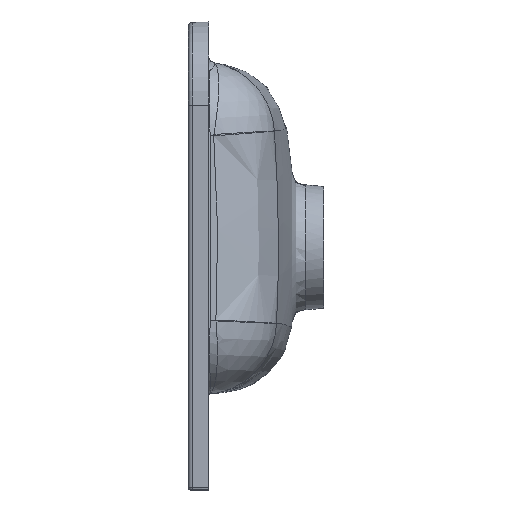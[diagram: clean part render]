
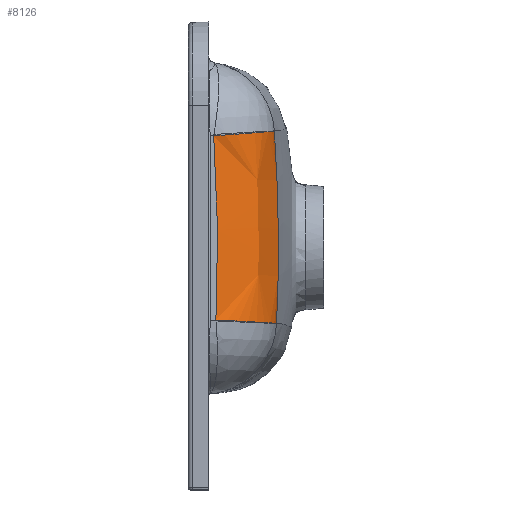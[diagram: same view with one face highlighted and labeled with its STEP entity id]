
A CAD part, left-side view. The second image highlights one B-rep face of the part: STEP entity #8126.
In plain terms, the highlighted free-form (B-spline) face has degree [3, 2] with [14, 3] control points.
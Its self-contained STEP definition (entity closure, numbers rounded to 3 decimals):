
#202 = DIRECTION ( 'NONE',  ( 0.008, -0.047, 0.999 ) ) ;
#268 = CARTESIAN_POINT ( 'NONE',  ( -246.825, 67.188, 109.935 ) ) ;
#399 = CARTESIAN_POINT ( 'NONE',  ( -182.777, 5.2, -74.889 ) ) ;
#421 = CARTESIAN_POINT ( 'NONE',  ( -183.133, 3.418, 4.333 ) ) ;
#437 = CARTESIAN_POINT ( 'NONE',  ( -182.467, 7.408, 114.668 ) ) ;
#460 = CARTESIAN_POINT ( 'NONE',  ( -246.274, 64.058, 49.481 ) ) ;
#544 = CARTESIAN_POINT ( 'NONE',  ( -183.125, 3.456, -11.563 ) ) ;
#829 = CARTESIAN_POINT ( 'NONE',  ( -246.825, 67.188, 109.935 ) ) ;
#1023 = FACE_OUTER_BOUND ( 'NONE', #3909, .T. ) ;
#1048 = CARTESIAN_POINT ( 'NONE',  ( -182.947, 4.278, 51.915 ) ) ;
#1127 = CARTESIAN_POINT ( 'NONE',  ( -183.123, 3.462, 12.281 ) ) ;
#1319 = DIRECTION ( 'NONE',  ( 0., -0.998, 0.066 ) ) ;
#1326 = VERTEX_POINT ( 'NONE', #3235 ) ;
#1416 = CARTESIAN_POINT ( 'NONE',  ( -246.265, 64.007, 49.482 ) ) ;
#1723 = CARTESIAN_POINT ( 'NONE',  ( -182.467, 7.408, 114.668 ) ) ;
#1819 = CARTESIAN_POINT ( 'NONE',  ( -183.054, 3.767, 35.742 ) ) ;
#2086 = CIRCLE ( 'NONE', #3154, 73. ) ;
#2253 = B_SPLINE_CURVE_WITH_KNOTS ( 'NONE', 3,
 ( #4647, #7167, #7590, #2672, #6542, #4059, #1416, #4451, #6966, #829 ),
 .UNSPECIFIED., .F., .F.,
 ( 4, 2, 2, 2, 4 ),
 ( 0., 0.045, 0.091, 0.136, 0.181 ),
 .UNSPECIFIED. ) ;
#2323 = CARTESIAN_POINT ( 'NONE',  ( -182.9, 4.482, -59.149 ) ) ;
#2351 = CARTESIAN_POINT ( 'NONE',  ( -236.775, 10.187, 27.855 ) ) ;
#2369 = CARTESIAN_POINT ( 'NONE',  ( -183.137, 3.397, -11.66 ) ) ;
#2391 = CARTESIAN_POINT ( 'NONE',  ( -182.892, 4.556, 59.811 ) ) ;
#2404 = CARTESIAN_POINT ( 'NONE',  ( -182.901, 4.479, -59.09 ) ) ;
#2428 = CARTESIAN_POINT ( 'NONE',  ( -246.166, 63.449, 26.804 ) ) ;
#2442 = CARTESIAN_POINT ( 'NONE',  ( -182.954, 4.214, 51.534 ) ) ;
#2468 = CARTESIAN_POINT ( 'NONE',  ( -246.195, 63.614, 34.363 ) ) ;
#2499 = VERTEX_POINT ( 'NONE', #2711 ) ;
#2672 = CARTESIAN_POINT ( 'NONE',  ( -246.118, 63.175, -11.001 ) ) ;
#2711 = CARTESIAN_POINT ( 'NONE',  ( -182.777, 5.2, -74.889 ) ) ;
#2750 = ORIENTED_EDGE ( 'NONE', *, *, #7606, .F. ) ;
#2843 = ORIENTED_EDGE ( 'NONE', *, *, #5863, .F. ) ;
#2856 =( BOUNDED_SURFACE ( )  B_SPLINE_SURFACE ( 3, 2, ( 
 ( #399, #2953, #5492 ),
 ( #2323, #4873, #6188 ),
 ( #6268, #8080, #5514 ),
 ( #3101, #5642, #6146 ),
 ( #544, #4240, #3610 ),
 ( #421, #8116, #2976 ),
 ( #1127, #5563, #3648 ),
 ( #8041, #2351, #2428 ),
 ( #4942, #8154, #2468 ),
 ( #1048, #3688, #460 ),
 ( #2391, #4977, #4905 ),
 ( #6839, #7425, #7498 ),
 ( #7460, #5015, #7546 ),
 ( #1723, #6231, #3018 ) ),
 .UNSPECIFIED., .F., .F., .F. ) 
 B_SPLINE_SURFACE_WITH_KNOTS ( ( 4, 2, 2, 2, 2, 2, 4 ),
 ( 3, 3 ),
 ( 0., 0.045, 0.068, 0.091, 0.113, 0.136, 0.181 ),
 ( 0., 1. ),
 .UNSPECIFIED. ) 
 GEOMETRIC_REPRESENTATION_ITEM ( )  RATIONAL_B_SPLINE_SURFACE ( (
 ( 1., 0.801, 1.),
 ( 1., 0.802, 1.),
 ( 1., 0.803, 1.),
 ( 1., 0.804, 1.),
 ( 1., 0.804, 1.),
 ( 1., 0.804, 1.),
 ( 1., 0.804, 1.),
 ( 1., 0.803, 1.),
 ( 1., 0.803, 1.),
 ( 1., 0.802, 1.),
 ( 1., 0.802, 1.),
 ( 1., 0.801, 1.),
 ( 1., 0.799, 1.),
 ( 1., 0.798, 1.) ) ) 
 REPRESENTATION_ITEM ( '' )  SURFACE ( )  );
#2953 = CARTESIAN_POINT ( 'NONE',  ( -236.975, 11.323, -74.144 ) ) ;
#2976 = CARTESIAN_POINT ( 'NONE',  ( -246.122, 63.198, 4.122 ) ) ;
#3018 = CARTESIAN_POINT ( 'NONE',  ( -246.825, 67.188, 109.935 ) ) ;
#3101 = CARTESIAN_POINT ( 'NONE',  ( -183.106, 3.537, -19.51 ) ) ;
#3120 = VERTEX_POINT ( 'NONE', #7429 ) ;
#3154 = AXIS2_PLACEMENT_3D ( 'NONE', #4676, #202, #7195 ) ;
#3163 = CARTESIAN_POINT ( 'NONE',  ( -182.582, 6.389, 98.89 ) ) ;
#3235 = CARTESIAN_POINT ( 'NONE',  ( -246.436, 64.98, -71.516 ) ) ;
#3289 = ORIENTED_EDGE ( 'NONE', *, *, #4577, .T. ) ;
#3422 = DIRECTION ( 'NONE',  ( -0.012, 0.066, 0.998 ) ) ;
#3475 = CIRCLE ( 'NONE', #6654, 73. ) ;
#3610 = CARTESIAN_POINT ( 'NONE',  ( -246.129, 63.235, -11.001 ) ) ;
#3648 = CARTESIAN_POINT ( 'NONE',  ( -246.13, 63.241, 11.683 ) ) ;
#3688 = CARTESIAN_POINT ( 'NONE',  ( -236.853, 10.632, 51.374 ) ) ;
#3909 = EDGE_LOOP ( 'NONE', ( #3289, #2843, #5319, #2750 ) ) ;
#4059 = CARTESIAN_POINT ( 'NONE',  ( -246.185, 63.554, 34.364 ) ) ;
#4240 = CARTESIAN_POINT ( 'NONE',  ( -236.747, 10.032, -11.436 ) ) ;
#4422 = CARTESIAN_POINT ( 'NONE',  ( -182.777, 5.2, -74.889 ) ) ;
#4451 = CARTESIAN_POINT ( 'NONE',  ( -246.497, 65.323, 79.712 ) ) ;
#4577 = EDGE_CURVE ( 'NONE', #1326, #2499, #2086, .T. ) ;
#4647 = CARTESIAN_POINT ( 'NONE',  ( -246.436, 64.98, -71.516 ) ) ;
#4676 = CARTESIAN_POINT ( 'NONE',  ( -174.545, 77.656, -71.516 ) ) ;
#4873 = CARTESIAN_POINT ( 'NONE',  ( -236.879, 10.779, -58.552 ) ) ;
#4905 = CARTESIAN_POINT ( 'NONE',  ( -246.323, 64.336, 57.039 ) ) ;
#4920 = VERTEX_POINT ( 'NONE', #268 ) ;
#4942 = CARTESIAN_POINT ( 'NONE',  ( -183.039, 3.835, 36.089 ) ) ;
#4955 = CARTESIAN_POINT ( 'NONE',  ( -182.717, 5.526, 83.108 ) ) ;
#4977 = CARTESIAN_POINT ( 'NONE',  ( -236.89, 10.839, 59.198 ) ) ;
#5015 = CARTESIAN_POINT ( 'NONE',  ( -237.137, 12.241, 98.189 ) ) ;
#5208 = CARTESIAN_POINT ( 'NONE',  ( -174.935, 79.864, 109.935 ) ) ;
#5225 = B_SPLINE_CURVE_WITH_KNOTS ( 'NONE', 3,
 ( #437, #3163, #4955, #2442, #1819, #7561, #2369, #5578, #2404, #4422 ),
 .UNSPECIFIED., .F., .F.,
 ( 4, 2, 2, 2, 4 ),
 ( 0., 0.047, 0.095, 0.142, 0.19 ),
 .UNSPECIFIED. ) ;
#5319 = ORIENTED_EDGE ( 'NONE', *, *, #7861, .F. ) ;
#5492 = CARTESIAN_POINT ( 'NONE',  ( -246.436, 64.98, -71.516 ) ) ;
#5514 = CARTESIAN_POINT ( 'NONE',  ( -246.217, 63.738, -41.254 ) ) ;
#5563 = CARTESIAN_POINT ( 'NONE',  ( -236.748, 10.037, 12.147 ) ) ;
#5578 = CARTESIAN_POINT ( 'NONE',  ( -183.013, 3.958, -43.283 ) ) ;
#5642 = CARTESIAN_POINT ( 'NONE',  ( -236.758, 10.091, -19.298 ) ) ;
#5863 = EDGE_CURVE ( 'NONE', #3120, #2499, #5225, .T. ) ;
#6146 = CARTESIAN_POINT ( 'NONE',  ( -246.143, 63.316, -18.564 ) ) ;
#6188 = CARTESIAN_POINT ( 'NONE',  ( -246.309, 64.261, -56.384 ) ) ;
#6231 = CARTESIAN_POINT ( 'NONE',  ( -237.278, 13.04, 113.65 ) ) ;
#6268 = CARTESIAN_POINT ( 'NONE',  ( -183.012, 3.959, -43.319 ) ) ;
#6542 = CARTESIAN_POINT ( 'NONE',  ( -246.111, 63.137, 4.123 ) ) ;
#6654 = AXIS2_PLACEMENT_3D ( 'NONE', #5208, #3422, #1319 ) ;
#6839 = CARTESIAN_POINT ( 'NONE',  ( -182.714, 5.543, 83.434 ) ) ;
#6966 = CARTESIAN_POINT ( 'NONE',  ( -246.648, 66.182, 94.824 ) ) ;
#7167 = CARTESIAN_POINT ( 'NONE',  ( -246.309, 64.261, -56.384 ) ) ;
#7195 = DIRECTION ( 'NONE',  ( 0., -0.999, -0.047 ) ) ;
#7425 = CARTESIAN_POINT ( 'NONE',  ( -237.02, 11.581, 82.634 ) ) ;
#7429 = CARTESIAN_POINT ( 'NONE',  ( -182.467, 7.408, 114.668 ) ) ;
#7460 = CARTESIAN_POINT ( 'NONE',  ( -182.581, 6.403, 99.096 ) ) ;
#7498 = CARTESIAN_POINT ( 'NONE',  ( -246.497, 65.323, 79.712 ) ) ;
#7546 = CARTESIAN_POINT ( 'NONE',  ( -246.648, 66.182, 94.824 ) ) ;
#7561 = CARTESIAN_POINT ( 'NONE',  ( -183.147, 3.358, 4.145 ) ) ;
#7590 = CARTESIAN_POINT ( 'NONE',  ( -246.217, 63.738, -41.254 ) ) ;
#7606 = EDGE_CURVE ( 'NONE', #1326, #4920, #2253, .T. ) ;
#7861 = EDGE_CURVE ( 'NONE', #4920, #3120, #3475, .T. ) ;
#8041 = CARTESIAN_POINT ( 'NONE',  ( -183.076, 3.67, 28.159 ) ) ;
#8080 = CARTESIAN_POINT ( 'NONE',  ( -236.812, 10.397, -42.864 ) ) ;
#8116 = CARTESIAN_POINT ( 'NONE',  ( -236.743, 10.005, 4.285 ) ) ;
#8126 = ADVANCED_FACE ( 'NONE', ( #1023 ), #2856, .T. ) ;
#8154 = CARTESIAN_POINT ( 'NONE',  ( -236.796, 10.307, 35.704 ) ) ;
